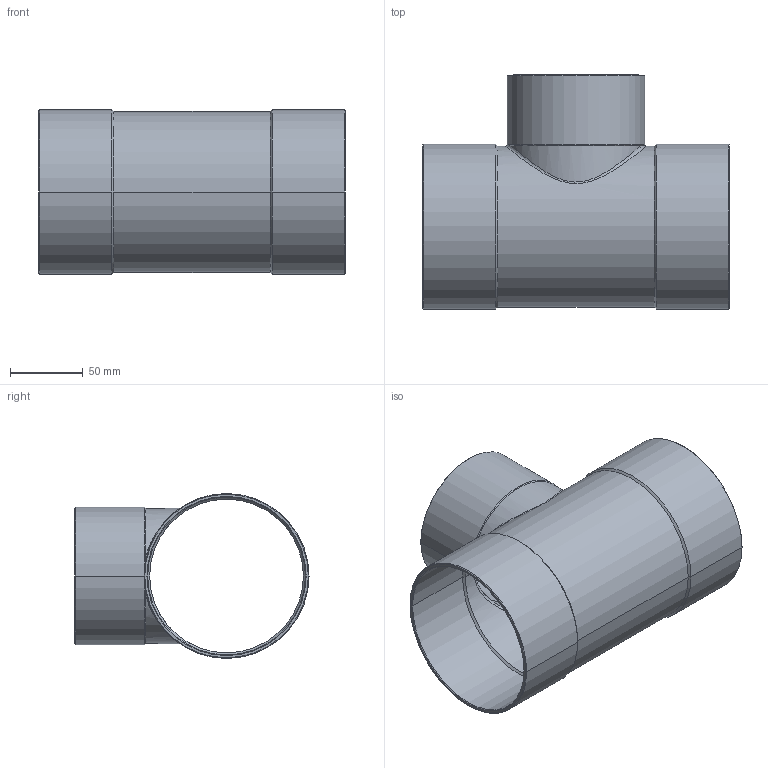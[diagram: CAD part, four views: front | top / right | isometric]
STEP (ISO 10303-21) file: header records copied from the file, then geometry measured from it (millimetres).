
FILE_DESCRIPTION((''),'2;1');
FILE_NAME('G:\Technics\CAD\Bauteile\15130\1513010889108.stp','2005-11-02T10:20:09',('boden'),(''),'Autodesk Inventor 8','Autodesk Inventor 8','');
FILE_SCHEMA(('AUTOMOTIVE_DESIGN { 1 0 10303 214 1 1 1 1 }'));
Length unit declared in the file: millimetre
Products named in the file (1): 1513010889108
Bounding box: 210 x 160.6 x 113.2 mm (x, y, z)
Volume: 206807.4 mm3; surface area: 167500.2 mm2
Topology: 1 solids, 1 shells, 49 faces, 110 edges, 62 vertices
Faces by surface type: cone 24, cylinder 20, plane 3, bspline 2
Entity records: 1921 total; most frequent: CARTESIAN_POINT 806, DIRECTION 240, ORIENTED_EDGE 220, EDGE_CURVE 110, AXIS2_PLACEMENT_3D 98, VERTEX_POINT 62, EDGE_LOOP 52, CIRCLE 50
